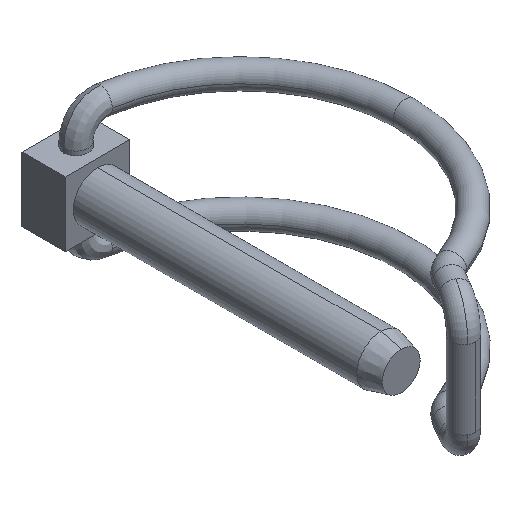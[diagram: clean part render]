
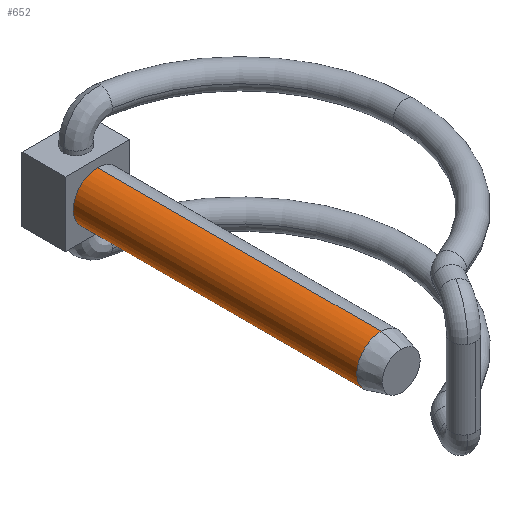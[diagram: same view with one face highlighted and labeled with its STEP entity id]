
A CAD part, isometric view. The second image highlights one B-rep face of the part: STEP entity #652.
In plain terms, the highlighted cylindrical face has radius 4 mm (diameter 8 mm), a partial arc.
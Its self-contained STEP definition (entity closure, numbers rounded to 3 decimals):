
#27 = DIRECTION ( 'NONE',  ( 0., 0., 1. ) ) ;
#37 = AXIS2_PLACEMENT_3D ( 'NONE', #1458, #180, #27 ) ;
#82 = VERTEX_POINT ( 'NONE', #1278 ) ;
#95 = LINE ( 'NONE', #529, #542 ) ;
#130 = EDGE_CURVE ( 'NONE', #521, #82, #1409, .T. ) ;
#132 = FACE_OUTER_BOUND ( 'NONE', #316, .T. ) ;
#149 = ORIENTED_EDGE ( 'NONE', *, *, #201, .T. ) ;
#180 = DIRECTION ( 'NONE',  ( 0., 1., 0. ) ) ;
#201 = EDGE_CURVE ( 'NONE', #82, #1250, #95, .T. ) ;
#298 = CARTESIAN_POINT ( 'NONE',  ( 0., -50., -4. ) ) ;
#316 = EDGE_LOOP ( 'NONE', ( #823, #532, #149, #875 ) ) ;
#423 = DIRECTION ( 'NONE',  ( 0., 0., 1. ) ) ;
#521 = VERTEX_POINT ( 'NONE', #765 ) ;
#529 = CARTESIAN_POINT ( 'NONE',  ( 0., -50., 4. ) ) ;
#532 = ORIENTED_EDGE ( 'NONE', *, *, #130, .T. ) ;
#542 = VECTOR ( 'NONE', #1101, 1000. ) ;
#543 = AXIS2_PLACEMENT_3D ( 'NONE', #954, #700, #820 ) ;
#569 = CARTESIAN_POINT ( 'NONE',  ( 0., 0., 4. ) ) ;
#652 = ADVANCED_FACE ( 'NONE', ( #132 ), #1792, .T. ) ;
#700 = DIRECTION ( 'NONE',  ( 0., 1., 0. ) ) ;
#765 = CARTESIAN_POINT ( 'NONE',  ( 0., -46.683, -4. ) ) ;
#820 = DIRECTION ( 'NONE',  ( 0., 0., 1. ) ) ;
#823 = ORIENTED_EDGE ( 'NONE', *, *, #862, .F. ) ;
#839 = CIRCLE ( 'NONE', #37, 4. ) ;
#845 = EDGE_CURVE ( 'NONE', #961, #1250, #839, .T. ) ;
#862 = EDGE_CURVE ( 'NONE', #521, #961, #1155, .T. ) ;
#875 = ORIENTED_EDGE ( 'NONE', *, *, #845, .F. ) ;
#954 = CARTESIAN_POINT ( 'NONE',  ( 0., -50., 0. ) ) ;
#961 = VERTEX_POINT ( 'NONE', #1342 ) ;
#1101 = DIRECTION ( 'NONE',  ( 0., 1., 0. ) ) ;
#1155 = LINE ( 'NONE', #298, #1765 ) ;
#1250 = VERTEX_POINT ( 'NONE', #569 ) ;
#1278 = CARTESIAN_POINT ( 'NONE',  ( 0., -46.683, 4. ) ) ;
#1328 = AXIS2_PLACEMENT_3D ( 'NONE', #1803, #1700, #423 ) ;
#1342 = CARTESIAN_POINT ( 'NONE',  ( 0., 0., -4. ) ) ;
#1409 = CIRCLE ( 'NONE', #1328, 4. ) ;
#1458 = CARTESIAN_POINT ( 'NONE',  ( 0., 0., 0. ) ) ;
#1601 = DIRECTION ( 'NONE',  ( 0., 1., 0. ) ) ;
#1700 = DIRECTION ( 'NONE',  ( 0., 1., 0. ) ) ;
#1765 = VECTOR ( 'NONE', #1601, 1000. ) ;
#1792 = CYLINDRICAL_SURFACE ( 'NONE', #543, 4. ) ;
#1803 = CARTESIAN_POINT ( 'NONE',  ( 0., -46.683, 0. ) ) ;
